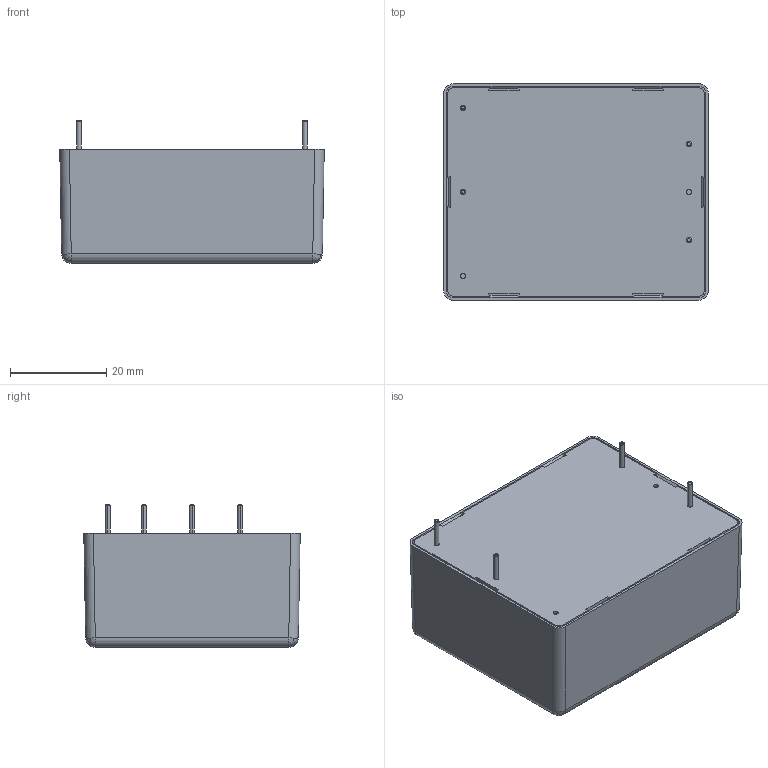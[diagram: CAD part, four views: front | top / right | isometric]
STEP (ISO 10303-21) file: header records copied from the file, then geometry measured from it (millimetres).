
FILE_DESCRIPTION (( 'STEP AP203' ), '1' );
FILE_NAME ('TMF20.STEP', '2016-11-07T15:42:09', ( '' ), ( '' ), 'SwSTEP 2.0', 'SolidWorks 2013', '' );
FILE_SCHEMA (( 'CONFIG_CONTROL_DESIGN' ));
Length unit declared in the file: millimetre
Products named in the file (1): TMF20
Bounding box: 55 x 45 x 29.7 mm (x, y, z)
Surface area: 15987.9 mm2 (no closed solid volume)
Topology: 0 solids, 7 shells, 122 faces, 384 edges, 254 vertices
Faces by surface type: plane 68, cylinder 34, bspline 16, cone 4
Entity records: 4399 total; most frequent: CARTESIAN_POINT 1041, DIRECTION 672, ORIENTED_EDGE 652, EDGE_CURVE 376, VECTOR 262, LINE 262, VERTEX_POINT 254, AXIS2_PLACEMENT_3D 205
